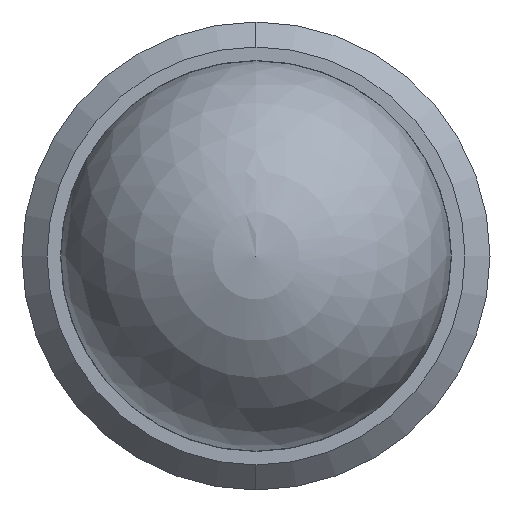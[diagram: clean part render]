
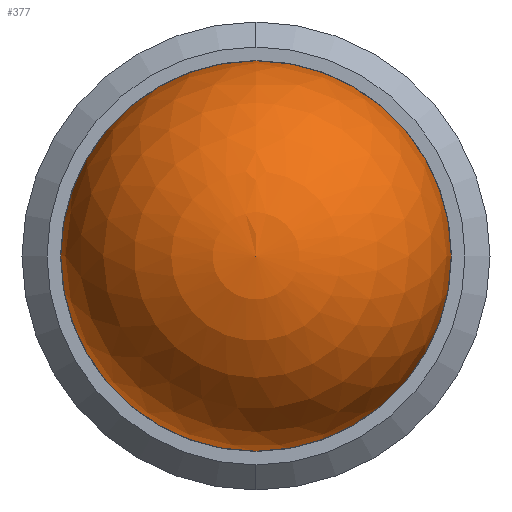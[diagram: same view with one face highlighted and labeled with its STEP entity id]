
A CAD part, left-side view. The second image highlights one B-rep face of the part: STEP entity #377.
In plain terms, the highlighted spherical face has radius 1.984 mm.
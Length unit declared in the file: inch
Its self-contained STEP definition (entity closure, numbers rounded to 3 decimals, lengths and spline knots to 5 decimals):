
#3 = SPHERICAL_SURFACE ( 'NONE', #280, 0.07813 ) ;
#42 = VERTEX_POINT ( 'NONE', #153 ) ;
#61 = CARTESIAN_POINT ( 'NONE',  ( 0., 0., 0. ) ) ;
#66 = FACE_OUTER_BOUND ( 'NONE', #487, .T. ) ;
#151 = EDGE_CURVE ( 'NONE', #542, #42, #195, .T. ) ;
#153 = CARTESIAN_POINT ( 'NONE',  ( 0., -0.07813, 0. ) ) ;
#176 = DIRECTION ( 'NONE',  ( 0., 0., 1. ) ) ;
#181 = CIRCLE ( 'NONE', #611, 0.07813 ) ;
#183 = EDGE_CURVE ( 'NONE', #542, #42, #181, .T. ) ;
#195 = CIRCLE ( 'NONE', #429, 0.07813 ) ;
#258 = CARTESIAN_POINT ( 'NONE',  ( 0., 0., 0. ) ) ;
#280 = AXIS2_PLACEMENT_3D ( 'NONE', #61, #355, #176 ) ;
#306 = CARTESIAN_POINT ( 'NONE',  ( 0., 0.07813, 0. ) ) ;
#316 = CARTESIAN_POINT ( 'NONE',  ( 0., 0., 0. ) ) ;
#332 = ORIENTED_EDGE ( 'NONE', *, *, #151, .T. ) ;
#355 = DIRECTION ( 'NONE',  ( -1., 0., 0. ) ) ;
#369 = DIRECTION ( 'NONE',  ( 0., 0., -1. ) ) ;
#377 = ADVANCED_FACE ( 'NONE', ( #66 ), #3, .T. ) ;
#398 = DIRECTION ( 'NONE',  ( 0., 0., 1. ) ) ;
#404 = ORIENTED_EDGE ( 'NONE', *, *, #183, .F. ) ;
#416 = DIRECTION ( 'NONE',  ( -1., 0., 0. ) ) ;
#429 = AXIS2_PLACEMENT_3D ( 'NONE', #258, #416, #398 ) ;
#487 = EDGE_LOOP ( 'NONE', ( #404, #332 ) ) ;
#542 = VERTEX_POINT ( 'NONE', #306 ) ;
#609 = DIRECTION ( 'NONE',  ( 1., 0., 0. ) ) ;
#611 = AXIS2_PLACEMENT_3D ( 'NONE', #316, #609, #369 ) ;
